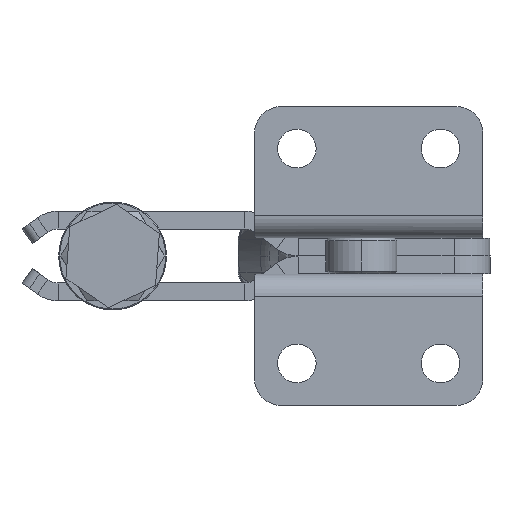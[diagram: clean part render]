
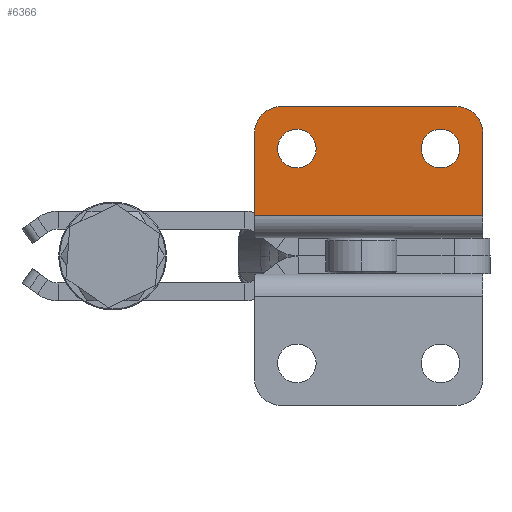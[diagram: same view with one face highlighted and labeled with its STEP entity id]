
A CAD part, front view. The second image highlights one B-rep face of the part: STEP entity #6366.
In plain terms, the highlighted planar face has unit normal (0, -1, 0).
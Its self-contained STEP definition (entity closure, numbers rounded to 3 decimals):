
#476 = AXIS2_PLACEMENT_3D ( 'NONE', #12774, #31486, #15461 ) ;
#2105 = CARTESIAN_POINT ( 'NONE',  ( -9.7, 11.681, 12.639 ) ) ;
#2211 = CIRCLE ( 'NONE', #17125, 2.15 ) ;
#2444 = CARTESIAN_POINT ( 'NONE',  ( -5.85, 11.681, 7.939 ) ) ;
#2527 = CARTESIAN_POINT ( 'NONE',  ( -8., 11.681, 7.939 ) ) ;
#2806 = VERTEX_POINT ( 'NONE', #14424 ) ;
#3041 = CIRCLE ( 'NONE', #15354, 2.15 ) ;
#3061 = CARTESIAN_POINT ( 'NONE',  ( -9.7, 11.681, 9.639 ) ) ;
#3968 = ORIENTED_EDGE ( 'NONE', *, *, #14019, .F. ) ;
#4042 = ORIENTED_EDGE ( 'NONE', *, *, #29007, .F. ) ;
#4269 = ORIENTED_EDGE ( 'NONE', *, *, #17466, .T. ) ;
#4763 = AXIS2_PLACEMENT_3D ( 'NONE', #22708, #6702, #25423 ) ;
#4821 = DIRECTION ( 'NONE',  ( 1., 0., 0. ) ) ;
#5163 = CARTESIAN_POINT ( 'NONE',  ( -9.7, 11.681, 9.639 ) ) ;
#5240 = DIRECTION ( 'NONE',  ( 1., 0., 0. ) ) ;
#5753 = LINE ( 'NONE', #24139, #18288 ) ;
#5782 = DIRECTION ( 'NONE',  ( 1., 0., 0. ) ) ;
#6086 = EDGE_CURVE ( 'NONE', #33107, #22609, #20440, .T. ) ;
#6241 = EDGE_CURVE ( 'NONE', #32569, #27477, #22515, .T. ) ;
#6366 = ADVANCED_FACE ( 'NONE', ( #20850, #12038, #19152 ), #29256, .F. ) ;
#6702 = DIRECTION ( 'NONE',  ( 0., 1., 0. ) ) ;
#6781 = DIRECTION ( 'NONE',  ( 0., 1., 0. ) ) ;
#7215 = DIRECTION ( 'NONE',  ( 0., 0., -1. ) ) ;
#8933 = EDGE_LOOP ( 'NONE', ( #24317, #10595, #15684, #24950, #4042, #3968 ) ) ;
#9742 = VECTOR ( 'NONE', #7215, 1000. ) ;
#9895 = CARTESIAN_POINT ( 'NONE',  ( 12.7, 11.681, 9.639 ) ) ;
#10466 = CIRCLE ( 'NONE', #11028, 2.15 ) ;
#10595 = ORIENTED_EDGE ( 'NONE', *, *, #17740, .F. ) ;
#10794 = DIRECTION ( 'NONE',  ( 0., 0., 1. ) ) ;
#11028 = AXIS2_PLACEMENT_3D ( 'NONE', #22797, #6781, #25515 ) ;
#11793 = ORIENTED_EDGE ( 'NONE', *, *, #17443, .T. ) ;
#12038 = FACE_BOUND ( 'NONE', #13377, .T. ) ;
#12169 = VERTEX_POINT ( 'NONE', #26908 ) ;
#12530 = VECTOR ( 'NONE', #24014, 1000. ) ;
#12564 = ORIENTED_EDGE ( 'NONE', *, *, #6086, .T. ) ;
#12774 = CARTESIAN_POINT ( 'NONE',  ( 9.7, 11.681, 9.639 ) ) ;
#13205 = CARTESIAN_POINT ( 'NONE',  ( -8., 11.681, 7.939 ) ) ;
#13377 = EDGE_LOOP ( 'NONE', ( #4269, #11793 ) ) ;
#13848 = EDGE_LOOP ( 'NONE', ( #12564, #28834 ) ) ;
#14019 = EDGE_CURVE ( 'NONE', #20252, #12169, #5753, .T. ) ;
#14424 = CARTESIAN_POINT ( 'NONE',  ( 12.7, 11.681, 0.5 ) ) ;
#15354 = AXIS2_PLACEMENT_3D ( 'NONE', #13205, #31904, #15880 ) ;
#15461 = DIRECTION ( 'NONE',  ( 1., 0., 0. ) ) ;
#15684 = ORIENTED_EDGE ( 'NONE', *, *, #6241, .F. ) ;
#15880 = DIRECTION ( 'NONE',  ( 1., 0., 0. ) ) ;
#16109 = CIRCLE ( 'NONE', #18296, 3. ) ;
#16753 = CARTESIAN_POINT ( 'NONE',  ( -12.7, 11.681, 0.5 ) ) ;
#17125 = AXIS2_PLACEMENT_3D ( 'NONE', #2527, #21276, #5240 ) ;
#17443 = EDGE_CURVE ( 'NONE', #24976, #28082, #3041, .T. ) ;
#17466 = EDGE_CURVE ( 'NONE', #28082, #24976, #2211, .T. ) ;
#17478 = CARTESIAN_POINT ( 'NONE',  ( 12.7, 11.681, 9.639 ) ) ;
#17740 = EDGE_CURVE ( 'NONE', #27477, #2806, #23987, .T. ) ;
#18210 = EDGE_CURVE ( 'NONE', #31406, #32569, #27320, .T. ) ;
#18288 = VECTOR ( 'NONE', #10794, 1000. ) ;
#18296 = AXIS2_PLACEMENT_3D ( 'NONE', #3061, #21802, #5782 ) ;
#19152 = FACE_BOUND ( 'NONE', #13848, .T. ) ;
#20178 = VECTOR ( 'NONE', #4821, 1000. ) ;
#20252 = VERTEX_POINT ( 'NONE', #16753 ) ;
#20440 = CIRCLE ( 'NONE', #4763, 2.15 ) ;
#20850 = FACE_OUTER_BOUND ( 'NONE', #8933, .T. ) ;
#21190 = DIRECTION ( 'NONE',  ( 0., 1., 0. ) ) ;
#21276 = DIRECTION ( 'NONE',  ( 0., 1., 0. ) ) ;
#21323 = CARTESIAN_POINT ( 'NONE',  ( -9.7, 11.681, 0.5 ) ) ;
#21802 = DIRECTION ( 'NONE',  ( 0., 1., 0. ) ) ;
#22515 = CIRCLE ( 'NONE', #476, 3. ) ;
#22609 = VERTEX_POINT ( 'NONE', #23749 ) ;
#22708 = CARTESIAN_POINT ( 'NONE',  ( 8., 11.681, 7.939 ) ) ;
#22797 = CARTESIAN_POINT ( 'NONE',  ( 8., 11.681, 7.939 ) ) ;
#23749 = CARTESIAN_POINT ( 'NONE',  ( 5.85, 11.681, 7.939 ) ) ;
#23828 = AXIS2_PLACEMENT_3D ( 'NONE', #5163, #21190, #34611 ) ;
#23987 = LINE ( 'NONE', #9895, #9742 ) ;
#24014 = DIRECTION ( 'NONE',  ( -1., 0., 0. ) ) ;
#24139 = CARTESIAN_POINT ( 'NONE',  ( -12.7, 11.681, 9.639 ) ) ;
#24317 = ORIENTED_EDGE ( 'NONE', *, *, #33951, .F. ) ;
#24950 = ORIENTED_EDGE ( 'NONE', *, *, #18210, .F. ) ;
#24976 = VERTEX_POINT ( 'NONE', #33474 ) ;
#25364 = EDGE_CURVE ( 'NONE', #22609, #33107, #10466, .T. ) ;
#25423 = DIRECTION ( 'NONE',  ( 1., 0., 0. ) ) ;
#25515 = DIRECTION ( 'NONE',  ( 1., 0., 0. ) ) ;
#26908 = CARTESIAN_POINT ( 'NONE',  ( -12.7, 11.681, 9.639 ) ) ;
#27320 = LINE ( 'NONE', #2105, #20178 ) ;
#27477 = VERTEX_POINT ( 'NONE', #17478 ) ;
#28082 = VERTEX_POINT ( 'NONE', #2444 ) ;
#28834 = ORIENTED_EDGE ( 'NONE', *, *, #25364, .T. ) ;
#29007 = EDGE_CURVE ( 'NONE', #12169, #31406, #16109, .T. ) ;
#29256 = PLANE ( 'NONE',  #23828 ) ;
#29286 = LINE ( 'NONE', #21323, #12530 ) ;
#30645 = CARTESIAN_POINT ( 'NONE',  ( -9.7, 11.681, 12.639 ) ) ;
#31406 = VERTEX_POINT ( 'NONE', #30645 ) ;
#31486 = DIRECTION ( 'NONE',  ( 0., 1., 0. ) ) ;
#31904 = DIRECTION ( 'NONE',  ( 0., 1., 0. ) ) ;
#32381 = CARTESIAN_POINT ( 'NONE',  ( 10.15, 11.681, 7.939 ) ) ;
#32534 = CARTESIAN_POINT ( 'NONE',  ( 9.7, 11.681, 12.639 ) ) ;
#32569 = VERTEX_POINT ( 'NONE', #32534 ) ;
#33107 = VERTEX_POINT ( 'NONE', #32381 ) ;
#33474 = CARTESIAN_POINT ( 'NONE',  ( -10.15, 11.681, 7.939 ) ) ;
#33951 = EDGE_CURVE ( 'NONE', #2806, #20252, #29286, .T. ) ;
#34611 = DIRECTION ( 'NONE',  ( 1., 0., 0. ) ) ;
